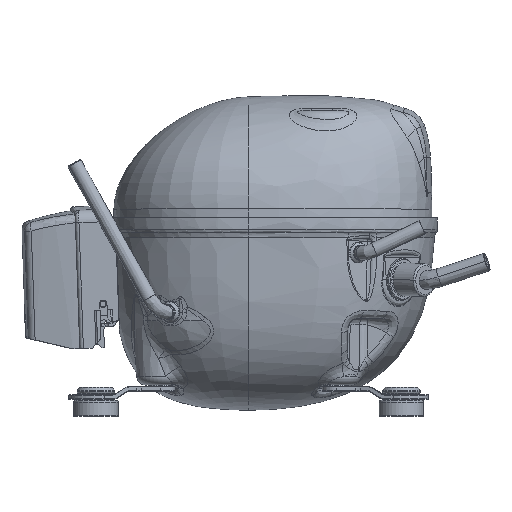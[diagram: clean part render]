
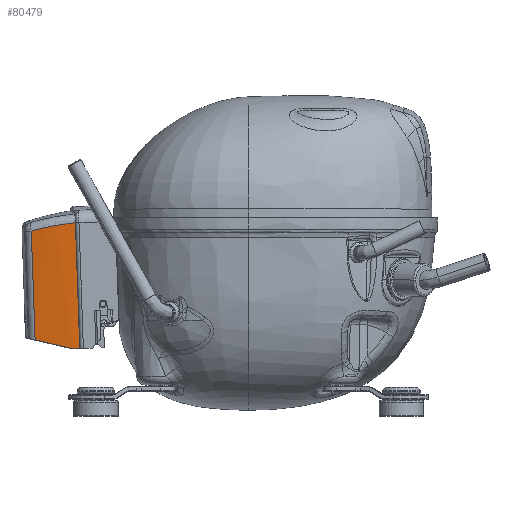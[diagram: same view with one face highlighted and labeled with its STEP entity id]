
A CAD part, top view. The second image highlights one B-rep face of the part: STEP entity #80479.
In plain terms, the highlighted cylindrical face has radius 127 mm (diameter 254 mm), a partial arc.
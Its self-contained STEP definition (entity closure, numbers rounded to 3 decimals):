
#77639=CARTESIAN_POINT('',(-21.15,0.,-99.191));
#77640=DIRECTION('',(0.,-1.,0.));
#77641=DIRECTION('',(-0.046,0.,0.999));
#77642=AXIS2_PLACEMENT_3D('',#77639,#77640,#77641);
#78019=CARTESIAN_POINT('',(-27.,70.105,
27.674));
#78020=CARTESIAN_POINT('',(-29.084,69.956,
27.578));
#78021=CARTESIAN_POINT('',(-33.245,69.574,
27.284));
#78022=CARTESIAN_POINT('',(-39.456,68.749,
26.535));
#78023=CARTESIAN_POINT('',(-45.61,67.671,
25.484));
#78024=CARTESIAN_POINT('',(-49.664,66.782,
24.584));
#78025=CARTESIAN_POINT('',(-51.676,66.295,
24.086));
#78027=DIRECTION('',(0.,1.,0.));
#78028=VECTOR('',#78027,70.105);
#78029=CARTESIAN_POINT('',(-27.,0.,27.674));
#78030=LINE('',#78029,#78028);
#78031=CARTESIAN_POINT('',(-51.676,5.574,
24.086));
#78032=CARTESIAN_POINT('',(-44.83,3.739,
25.781));
#78033=CARTESIAN_POINT('',(-37.896,1.881,
26.897));
#78034=CARTESIAN_POINT('',(-30.876,0.,27.436));
#78036=DIRECTION('',(0.,1.,0.));
#78037=VECTOR('',#78036,60.721);
#78038=CARTESIAN_POINT('',(-51.676,5.574,
24.086));
#78039=LINE('',#78038,#78037);
#78218=CARTESIAN_POINT('',(-51.676,5.574,
24.086));
#79633=CARTESIAN_POINT('',(-30.876,0.,27.436));
#79635=VERTEX_POINT('',#79633);
#79737=CARTESIAN_POINT('',(-27.,0.,27.674));
#79738=VERTEX_POINT('',#79737);
#79818=VERTEX_POINT('',#78019);
#79819=VERTEX_POINT('',#78025);
#79822=VERTEX_POINT('',#78218);
#80464=CARTESIAN_POINT('',(-21.15,0.,-99.191));
#80465=DIRECTION('',(0.,1.,0.));
#80466=DIRECTION('',(0.,0.,-1.));
#80467=AXIS2_PLACEMENT_3D('',#80464,#80465,#80466);
#80468=CYLINDRICAL_SURFACE('',#80467,127.);
#80470=ORIENTED_EDGE('',*,*,#80469,.F.);
#80471=ORIENTED_EDGE('',*,*,#80453,.F.);
#80472=ORIENTED_EDGE('',*,*,#79943,.T.);
#80474=ORIENTED_EDGE('',*,*,#80473,.F.);
#80476=ORIENTED_EDGE('',*,*,#80475,.T.);
#80477=EDGE_LOOP('',(#80470,#80471,#80472,#80474,#80476));
#80478=FACE_OUTER_BOUND('',#80477,.F.);
#80479=ADVANCED_FACE('',(#80478),#80468,.T.);
#77643=CIRCLE('',#77642,127.);
#78026=B_SPLINE_CURVE_WITH_KNOTS('',3,(#78019,#78020,#78021,#78022,#78023,
#78024,#78025),.UNSPECIFIED.,.F.,.F.,(4,1,1,1,4),(0.,0.25,0.5,0.75,
1.),.UNSPECIFIED.);
#78035=B_SPLINE_CURVE_WITH_KNOTS('',3,(#78031,#78032,#78033,#78034),
.UNSPECIFIED.,.F.,.F.,(4,4),(0.,1.),.UNSPECIFIED.);
#79943=EDGE_CURVE('',#79738,#79635,#77643,.T.);
#80453=EDGE_CURVE('',#79738,#79818,#78030,.T.);
#80469=EDGE_CURVE('',#79818,#79819,#78026,.T.);
#80473=EDGE_CURVE('',#79822,#79635,#78035,.T.);
#80475=EDGE_CURVE('',#79822,#79819,#78039,.T.);
